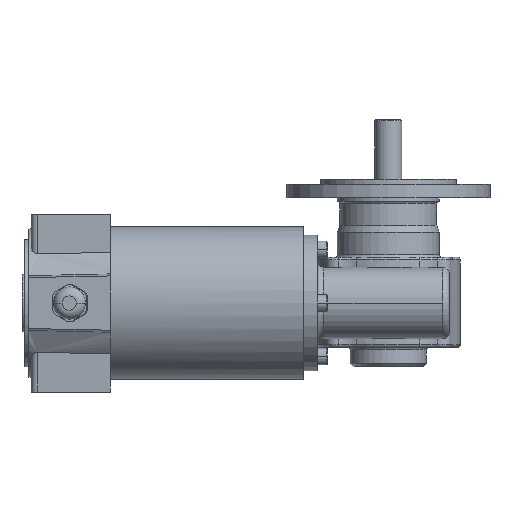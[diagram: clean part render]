
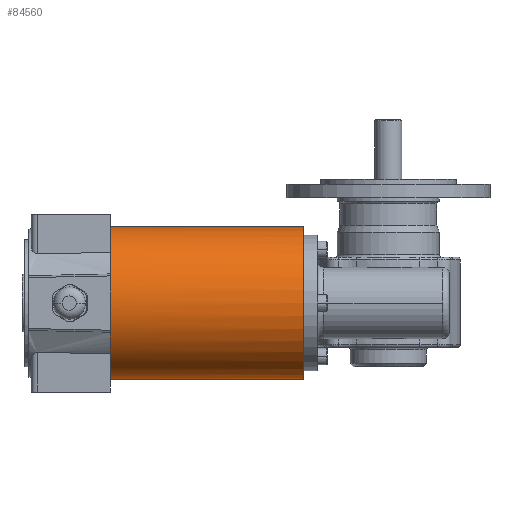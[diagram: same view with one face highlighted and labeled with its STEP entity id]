
A CAD part, front view. The second image highlights one B-rep face of the part: STEP entity #84560.
In plain terms, the highlighted cylindrical face has radius 45 mm (diameter 90 mm), a partial arc.
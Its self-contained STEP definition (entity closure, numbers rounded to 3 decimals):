
#21200=CARTESIAN_POINT('',(-64.,458.874,
-134.584));
#21210=DIRECTION('',(0.,1.,
-0.026));
#21220=DIRECTION('',(1.,0.,0.));
#21230=AXIS2_PLACEMENT_3D('',#21200,#21210,#21220);
#21240=CIRCLE('',#21230,45.);
#21250=CARTESIAN_POINT('',(-19.,458.874,
-134.584));
#21260=VERTEX_POINT('',#21250);
#21270=CARTESIAN_POINT('',(-109.,458.874,
-134.584));
#21280=VERTEX_POINT('',#21270);
#21290=EDGE_CURVE('',#21260,#21280,#21240,.T.);
#21360=CARTESIAN_POINT('',(-64.,458.874,
-134.584));
#21370=DIRECTION('',(0.,1.,
-0.026));
#21380=DIRECTION('',(1.,0.,0.));
#21390=AXIS2_PLACEMENT_3D('',#21360,#21370,#21380);
#21400=CYLINDRICAL_SURFACE('',#21390,45.);
#21410=CARTESIAN_POINT('',(-109.,458.874,
-134.584));
#21420=DIRECTION('',(0.,1.,
-0.026));
#21430=VECTOR('',#21420,1.);
#21440=LINE('',#21410,#21430);
#21450=CARTESIAN_POINT('',(-109.,572.835,
-137.568));
#21460=VERTEX_POINT('',#21450);
#21470=EDGE_CURVE('',#21280,#21460,#21440,.T.);
#21490=CARTESIAN_POINT('',(-64.,572.835,
-137.568));
#21500=DIRECTION('',(0.,1.,
-0.026));
#21510=DIRECTION('',(1.,0.,0.));
#21520=AXIS2_PLACEMENT_3D('',#21490,#21500,#21510);
#21530=CIRCLE('',#21520,45.);
#21540=CARTESIAN_POINT('',(-19.,572.835,
-137.568));
#21550=VERTEX_POINT('',#21540);
#21580=CARTESIAN_POINT('',(-19.,458.874,
-134.584));
#21590=DIRECTION('',(0.,1.,
-0.026));
#21600=VECTOR('',#21590,1.);
#21610=LINE('',#21580,#21600);
#21620=EDGE_CURVE('',#21260,#21550,#21610,.T.);
#21730=EDGE_CURVE('',#21550,#21460,#21530,.T.);
#84500=ORIENTED_EDGE('',*,*,#21730,.F.);
#84510=ORIENTED_EDGE('',*,*,#21470,.T.);
#84520=ORIENTED_EDGE('',*,*,#21290,.T.);
#84530=ORIENTED_EDGE('',*,*,#21620,.F.);
#84540=EDGE_LOOP('',(#84530,#84520,#84510,#84500));
#84550=FACE_OUTER_BOUND('',#84540,.T.);
#84560=ADVANCED_FACE('',(#84550),#21400,.T.);
